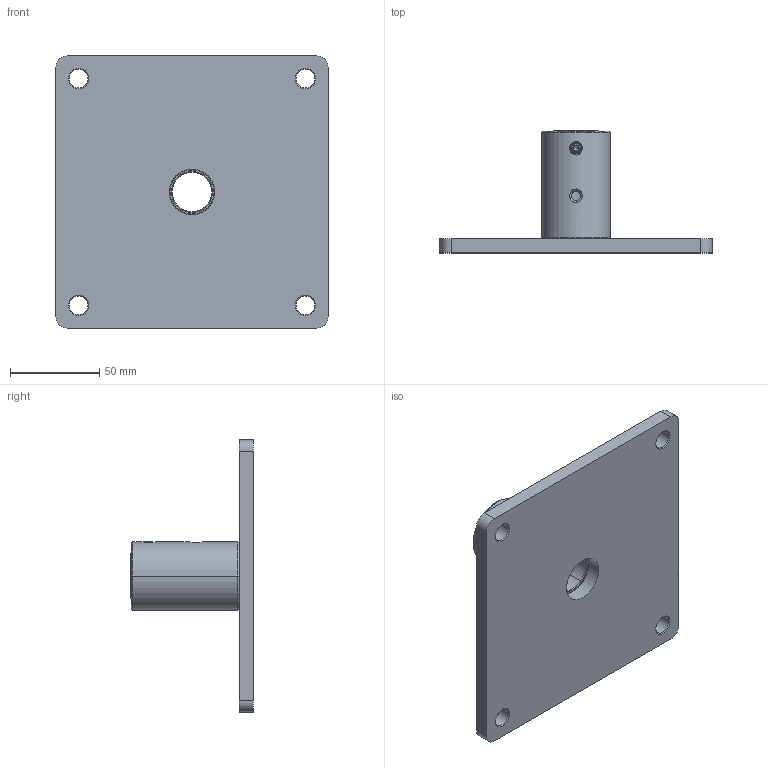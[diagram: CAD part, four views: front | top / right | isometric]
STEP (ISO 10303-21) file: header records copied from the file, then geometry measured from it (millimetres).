
FILE_DESCRIPTION (( 'STEP AP203' ), '1' );
FILE_NAME ('70-0015-00 REV 3, HD TABLE MOUNT.STEP', '2018-10-01T20:01:04', ( '' ), ( '' ), 'SwSTEP 2.0', 'SolidWorks 2012', '' );
FILE_SCHEMA (( 'CONFIG_CONTROL_DESIGN' ));
Length unit declared in the file: inch
Products named in the file (7): 016-007-00, OILITE PLUS BEARING, 0.876 id x 1.002 od x 0.75 lg; 70-0015-00 REV 3, HD TABLE MOUNT; 007-036-00, SHSS, 1''4-28, .25L_007-036-00; 71-0122-10 REV 2, PLATE, TABLE MOUNT; 71-2113-00 REV 1, HOUSING, BEARING, TALL, 1.5OD_MACHINE; 016-008-00, OILITE PLUS BEARING, 0.876 id x 1.002 od x 1.25 lg; 70-0015-0X REV 2, TABLE MOUNT WELDMENT_WELD
Assembly tree (6 placements, depth 3):
  70-0015-00 REV 3, HD TABLE MOUNT
    70-0015-0X REV 2, TABLE MOUNT WELDMENT_WELD
      71-2113-00 REV 1, HOUSING, BEARING, TALL, 1.5OD_MACHINE
      71-0122-10 REV 2, PLATE, TABLE MOUNT
    016-008-00, OILITE PLUS BEARING, 0.876 id x 1.002 od x 1.25 lg
    016-007-00, OILITE PLUS BEARING, 0.876 id x 1.002 od x 0.75 lg
    007-036-00, SHSS, 1''4-28, .25L_007-036-00
Bounding box: 152.4 x 68.64 x 152.4 mm (x, y, z)
Volume: 221371.4 mm3; surface area: 72507 mm2
Topology: 5 solids, 5 shells, 130 faces, 295 edges, 172 vertices
Faces by surface type: cylinder 42, cone 40, plane 25, torus 20, bspline 3
Entity records: 5821 total; most frequent: CARTESIAN_POINT 2175, DIRECTION 653, ORIENTED_EDGE 582, EDGE_CURVE 291, AXIS2_PLACEMENT_3D 274, VERTEX_POINT 172, EDGE_LOOP 151, CIRCLE 137
